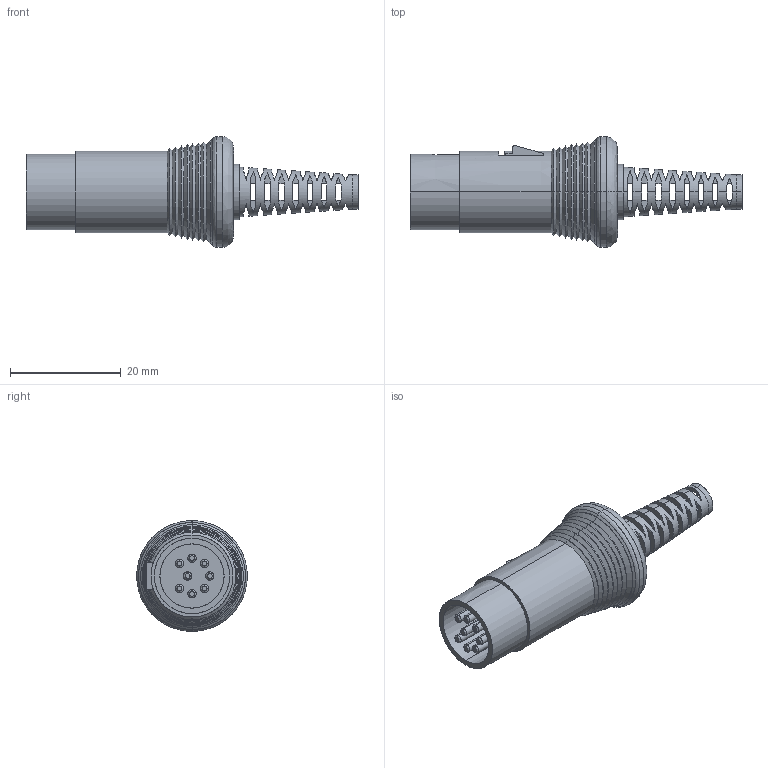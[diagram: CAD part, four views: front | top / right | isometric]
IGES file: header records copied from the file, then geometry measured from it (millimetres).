
Start section: SolidWorks IGES file using analytic representation for surfaces
Global section: file name: D:\デジカラーデータ\MD Spirit 2024_SOLIDWORKS 2023\３＿オプション\2_TC-1\IGES\TC-1_ホシデンTCP1300_径6.2.IGS; native system: SolidWorks 2023; preprocessor: SolidWorks 2023; author: sunahara; date: 240618.113523; units: millimetre
Bounding box: 60 x 20 x 20 mm (x, y, z)
Surface area: 4462.5 mm2 (no closed solid volume)
Topology: 0 solids, 0 shells, 374 faces, 3622 edges, 3622 vertices
Faces by surface type: bspline 301, revolution 73
